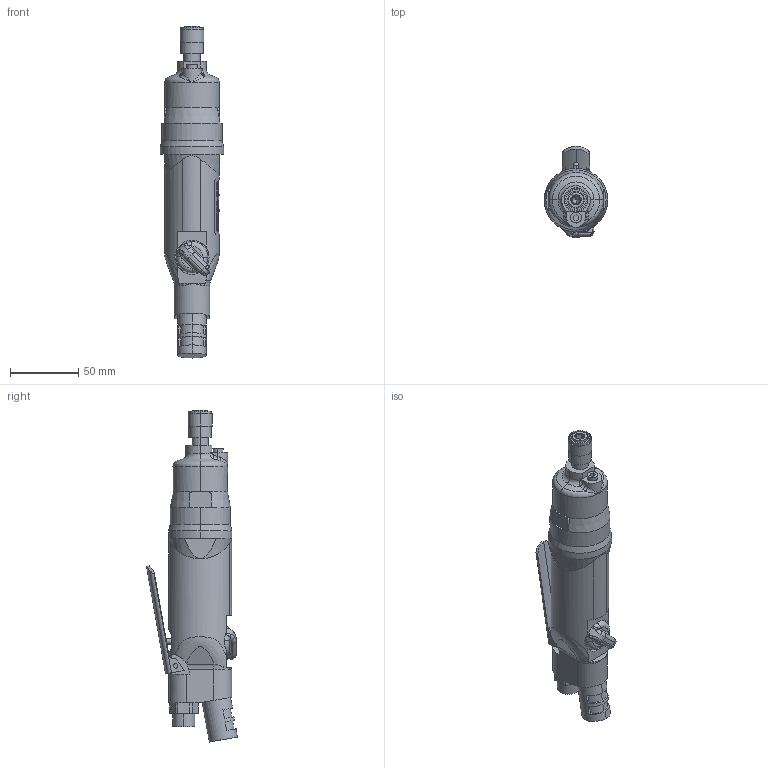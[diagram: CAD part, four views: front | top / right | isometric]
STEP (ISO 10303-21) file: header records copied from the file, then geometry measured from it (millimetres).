
FILE_DESCRIPTION (( 'STEP AP203' ), '1' );
FILE_NAME ('UX-500SD.STEP', '2006-12-04T00:12:04', ( ' ' ), ( ' ' ), 'SwSTEP 2.0', 'SolidWorks 2003240', '' );
FILE_SCHEMA (( 'CONFIG_CONTROL_DESIGN' ));
Length unit declared in the file: millimetre
Products named in the file (9): PIN_UX-500SD_蹬怮椔; 1802122_UX-500SD_蹬怮椔; UX-500SD; 1773507_UX-500SD_蹬怮椔; 1774395_UX-500SD_蹬怮椔; 1770257_UX-500SD_蹬怮椔; 5001071_UX-500SD_蹬怮椔; 9810020_UX-500SD_蹬怮椔; 0113511_UX-500SD_蹬怮椔
Assembly tree (8 placements, depth 2):
  UX-500SD
    1802122_UX-500SD_蹬怮椔
    1770257_UX-500SD_蹬怮椔
    PIN_UX-500SD_蹬怮椔
    0113511_UX-500SD_蹬怮椔
    1773507_UX-500SD_蹬怮椔
    1774395_UX-500SD_蹬怮椔
    5001071_UX-500SD_蹬怮椔
    9810020_UX-500SD_蹬怮椔
Bounding box: 46.5 x 66.66 x 243.29 mm (x, y, z)
Volume: 261229 mm3; surface area: 45910.9 mm2
Topology: 8 solids, 8 shells, 707 faces, 1848 edges, 1198 vertices
Faces by surface type: plane 323, cylinder 199, bspline 140, cone 23, torus 18, sphere 4
Entity records: 51733 total; most frequent: CARTESIAN_POINT 34890, ORIENTED_EDGE 3658, DIRECTION 2785, EDGE_CURVE 1829, VERTEX_POINT 1195, AXIS2_PLACEMENT_3D 989, LINE 807, VECTOR 807
